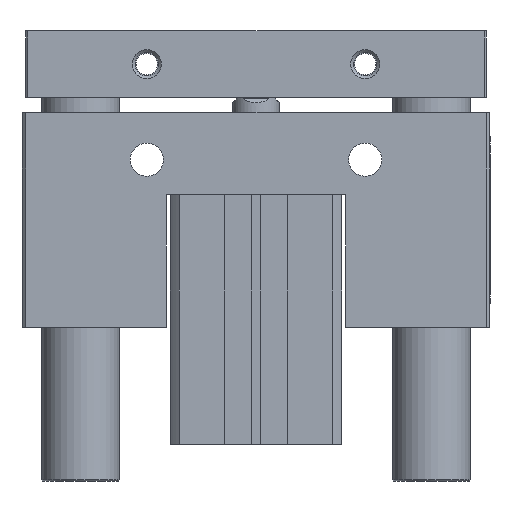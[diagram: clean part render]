
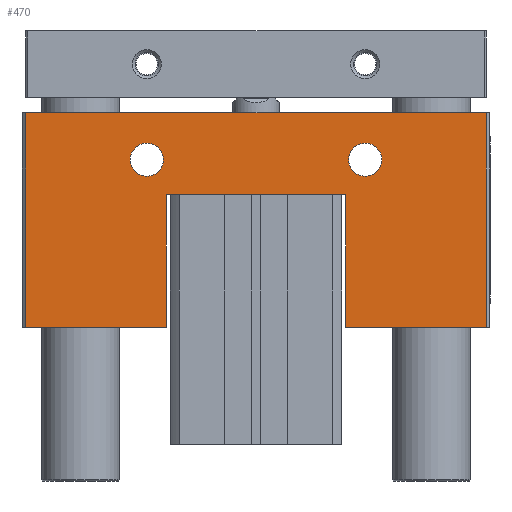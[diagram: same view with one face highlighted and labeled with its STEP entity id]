
A CAD part, front view. The second image highlights one B-rep face of the part: STEP entity #470.
In plain terms, the highlighted planar face has unit normal (0, -1, 0).
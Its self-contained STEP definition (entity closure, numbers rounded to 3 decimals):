
#199=CARTESIAN_POINT('',(-62.726,-23.62,85.));
#200=VERTEX_POINT('',#199);
#207=CARTESIAN_POINT('',(55.274,-23.62,85.));
#208=VERTEX_POINT('',#207);
#209=CARTESIAN_POINT('',(-62.726,-23.62,85.));
#210=DIRECTION('',(1.0,0.0,0.0));
#211=VECTOR('',#210,118.);
#212=LINE('',#209,#211);
#213=EDGE_CURVE('',#200,#208,#212,.T.);
#376=CARTESIAN_POINT('',(-62.726,-23.62,30.));
#377=VERTEX_POINT('',#376);
#384=CARTESIAN_POINT('',(-62.726,-23.62,30.));
#385=DIRECTION('',(0.0,0.0,1.0));
#386=VECTOR('',#385,55.);
#387=LINE('',#384,#386);
#388=EDGE_CURVE('',#377,#200,#387,.T.);
#393=CARTESIAN_POINT('',(-3.726,-23.62,59.533));
#394=DIRECTION('',(0.0,1.0,0.0));
#395=DIRECTION('',(0.0,0.0,1.0));
#396=AXIS2_PLACEMENT_3D('',#393,#394,#395);
#397=PLANE('',#396);
#398=ORIENTED_EDGE('',*,*,#388,.F.);
#399=CARTESIAN_POINT('',(-26.726,-23.62,30.));
#400=VERTEX_POINT('',#399);
#401=CARTESIAN_POINT('',(-26.726,-23.62,30.));
#402=DIRECTION('',(-1.0,0.0,0.0));
#403=VECTOR('',#402,36.);
#404=LINE('',#401,#403);
#405=EDGE_CURVE('',#400,#377,#404,.T.);
#406=ORIENTED_EDGE('',*,*,#405,.F.);
#407=CARTESIAN_POINT('',(-26.726,-23.62,64.0));
#408=VERTEX_POINT('',#407);
#409=CARTESIAN_POINT('',(-26.726,-23.62,64.0));
#410=DIRECTION('',(0.0,0.0,-1.0));
#411=VECTOR('',#410,34.0);
#412=LINE('',#409,#411);
#413=EDGE_CURVE('',#408,#400,#412,.T.);
#414=ORIENTED_EDGE('',*,*,#413,.F.);
#415=CARTESIAN_POINT('',(19.274,-23.62,64.0));
#416=VERTEX_POINT('',#415);
#417=CARTESIAN_POINT('',(19.274,-23.62,64.0));
#418=DIRECTION('',(-1.0,0.0,0.0));
#419=VECTOR('',#418,46.);
#420=LINE('',#417,#419);
#421=EDGE_CURVE('',#416,#408,#420,.T.);
#422=ORIENTED_EDGE('',*,*,#421,.F.);
#423=CARTESIAN_POINT('',(19.274,-23.62,30.));
#424=VERTEX_POINT('',#423);
#425=CARTESIAN_POINT('',(19.274,-23.62,30.));
#426=DIRECTION('',(0.0,0.0,1.0));
#427=VECTOR('',#426,34.0);
#428=LINE('',#425,#427);
#429=EDGE_CURVE('',#424,#416,#428,.T.);
#430=ORIENTED_EDGE('',*,*,#429,.F.);
#431=CARTESIAN_POINT('',(55.274,-23.62,30.));
#432=VERTEX_POINT('',#431);
#433=CARTESIAN_POINT('',(55.274,-23.62,30.));
#434=DIRECTION('',(-1.0,0.0,0.0));
#435=VECTOR('',#434,36.0);
#436=LINE('',#433,#435);
#437=EDGE_CURVE('',#432,#424,#436,.T.);
#438=ORIENTED_EDGE('',*,*,#437,.F.);
#439=CARTESIAN_POINT('',(55.274,-23.62,85.));
#440=DIRECTION('',(0.0,0.0,-1.0));
#441=VECTOR('',#440,55.);
#442=LINE('',#439,#441);
#443=EDGE_CURVE('',#208,#432,#442,.T.);
#444=ORIENTED_EDGE('',*,*,#443,.F.);
#445=ORIENTED_EDGE('',*,*,#213,.F.);
#446=EDGE_LOOP('',(#398,#406,#414,#422,#430,#438,#444,#445));
#447=FACE_OUTER_BOUND('',#446,.T.);
#448=CARTESIAN_POINT('',(-35.976,-23.62,73.));
#449=VERTEX_POINT('',#448);
#450=CARTESIAN_POINT('',(-31.726,-23.62,73.));
#451=DIRECTION('',(0.0,1.0,0.0));
#452=DIRECTION('',(1.0,0.0,0.0));
#453=AXIS2_PLACEMENT_3D('',#450,#451,#452);
#454=CIRCLE('',#453,4.25);
#455=EDGE_CURVE('',#449,#449,#454,.T.);
#456=ORIENTED_EDGE('',*,*,#455,.T.);
#457=EDGE_LOOP('',(#456));
#458=FACE_BOUND('',#457,.T.);
#459=CARTESIAN_POINT('',(20.024,-23.62,73.));
#460=VERTEX_POINT('',#459);
#461=CARTESIAN_POINT('',(24.274,-23.62,73.));
#462=DIRECTION('',(0.0,1.0,0.0));
#463=DIRECTION('',(1.0,0.0,0.0));
#464=AXIS2_PLACEMENT_3D('',#461,#462,#463);
#465=CIRCLE('',#464,4.25);
#466=EDGE_CURVE('',#460,#460,#465,.T.);
#467=ORIENTED_EDGE('',*,*,#466,.T.);
#468=EDGE_LOOP('',(#467));
#469=FACE_BOUND('',#468,.T.);
#470=ADVANCED_FACE('',(#447,#458,#469),#397,.F.);
